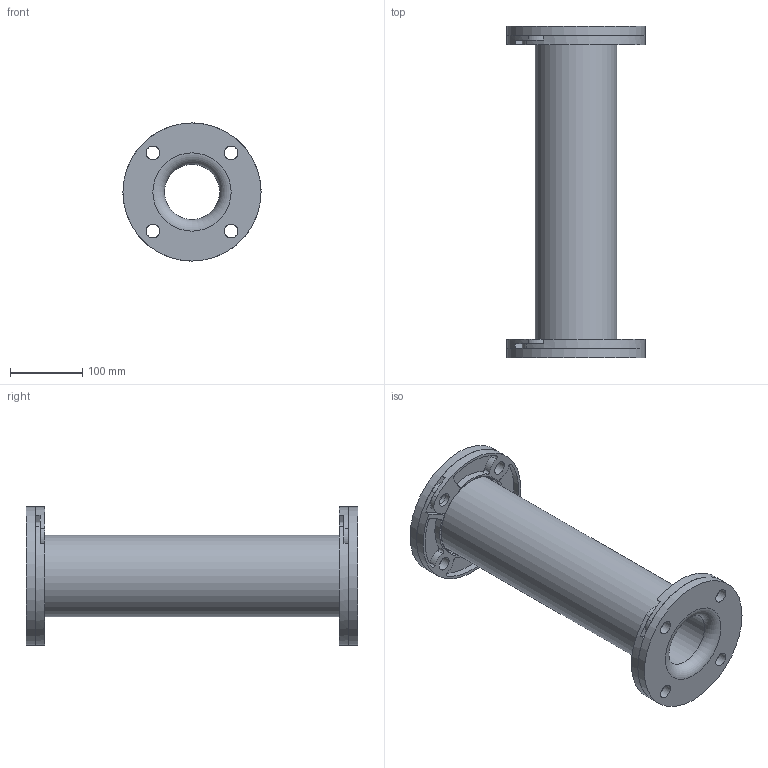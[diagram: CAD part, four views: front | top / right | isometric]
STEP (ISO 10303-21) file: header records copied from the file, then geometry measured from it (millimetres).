
FILE_DESCRIPTION(/* description */ (''),/* implementation_level */ '2;1');
FILE_NAME(/* name */ 'C:\001_Work\Designs\Mercer2014\MQInventor2014\RajR\150 Style\STP\STYLE 150 ASA150LB\150-3IDx18FF ASA150LB.stp',/* time_stamp */ '2016-05-20T18:42:00-04:00',/* author */ ('rramoutar'),/* organization */ ('Mason Industries Inc.'),/* preprocessor_version */ 'ST-DEVELOPER v15.6',/* originating_system */ 'Autodesk Inventor 2015',/* authorisation */ '');
FILE_SCHEMA (('CONFIG_CONTROL_DESIGN'));
Length unit declared in the file: inch
Products named in the file (1): 150-3IDx18FF
Bounding box: 190.5 x 457.2 x 190.5 mm (x, y, z)
Volume: 3113330 mm3; surface area: 478419.3 mm2
Topology: 3 solids, 3 shells, 162 faces, 438 edges, 292 vertices
Faces by surface type: cylinder 98, plane 52, torus 12
Full cylindrical faces by diameter (mm): 19.05 x18, 76.2 x1, 112.37 x1, 190.5 x2
Entity records: 5508 total; most frequent: CARTESIAN_POINT 1075, DIRECTION 950, ORIENTED_EDGE 816, EDGE_CURVE 408, AXIS2_PLACEMENT_3D 395, VERTEX_POINT 288, EDGE_LOOP 236, CIRCLE 232
